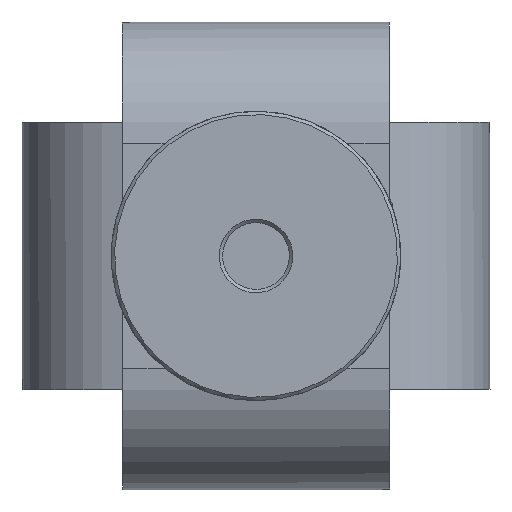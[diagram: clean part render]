
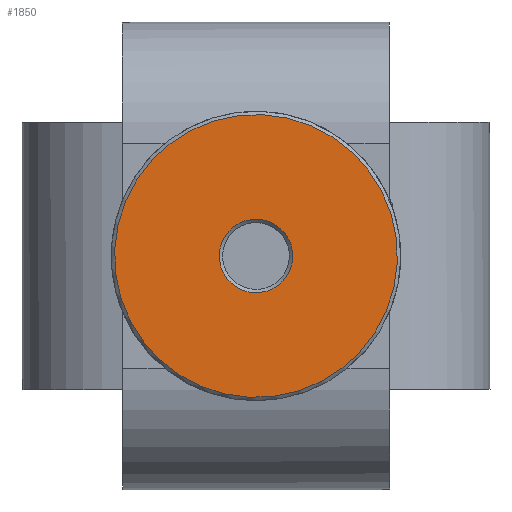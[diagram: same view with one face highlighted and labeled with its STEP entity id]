
A CAD part, left-side view. The second image highlights one B-rep face of the part: STEP entity #1850.
In plain terms, the highlighted planar face has unit normal (-1, 0, 0).
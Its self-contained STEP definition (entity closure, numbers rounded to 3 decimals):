
#292=PLANE('',#2018);
#384=FACE_BOUND('',#625,.T.);
#468=FACE_OUTER_BOUND('',#624,.T.);
#624=EDGE_LOOP('',(#1358));
#625=EDGE_LOOP('',(#1359));
#823=CIRCLE('',#2017,3.3);
#824=CIRCLE('',#2019,12.7);
#940=VERTEX_POINT('',#3106);
#941=VERTEX_POINT('',#3109);
#1103=EDGE_CURVE('',#940,#940,#823,.T.);
#1104=EDGE_CURVE('',#941,#941,#824,.T.);
#1358=ORIENTED_EDGE('',*,*,#1104,.F.);
#1359=ORIENTED_EDGE('',*,*,#1103,.F.);
#1850=ADVANCED_FACE('',(#468,#384),#292,.T.);
#2017=AXIS2_PLACEMENT_3D('',#3107,#2307,#2308);
#2018=AXIS2_PLACEMENT_3D('',#3108,#2309,#2310);
#2019=AXIS2_PLACEMENT_3D('',#3110,#2311,#2312);
#2307=DIRECTION('center_axis',(-1.,0.,0.));
#2308=DIRECTION('ref_axis',(0.,0.461,0.887));
#2309=DIRECTION('center_axis',(-1.,0.,0.));
#2310=DIRECTION('ref_axis',(0.,-0.461,-0.887));
#2311=DIRECTION('center_axis',(1.,0.,0.));
#2312=DIRECTION('ref_axis',(0.,-0.461,-0.887));
#3106=CARTESIAN_POINT('',(-75.686,-12.094,28.676));
#3107=CARTESIAN_POINT('Origin',(-75.686,-10.573,31.604));
#3108=CARTESIAN_POINT('Origin',(-75.686,-10.573,31.604));
#3109=CARTESIAN_POINT('',(-75.686,-4.718,42.874));
#3110=CARTESIAN_POINT('Origin',(-75.686,-10.573,31.604));
